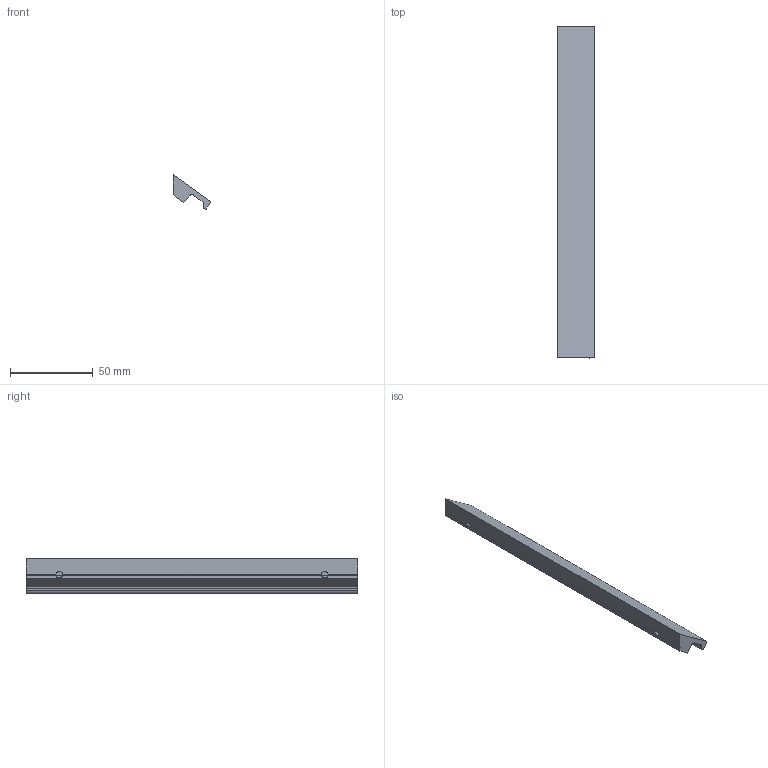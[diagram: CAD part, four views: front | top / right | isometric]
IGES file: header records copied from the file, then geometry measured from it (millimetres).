
Start section: C
Global section: file name: 8272.igs; native system: By Siemens PLM Incorporated; preprocessor: XPlus GENERIC/IGES 16.0.42; author: Author; organization: Title; date: 20200903.153637; units: millimetre
Bounding box: 22.8 x 200 x 21.01 mm (x, y, z)
Surface area: 15559.8 mm2 (no closed solid volume)
Topology: 0 solids, 0 shells, 27 faces, 154 edges, 154 vertices
Faces by surface type: bspline 27
